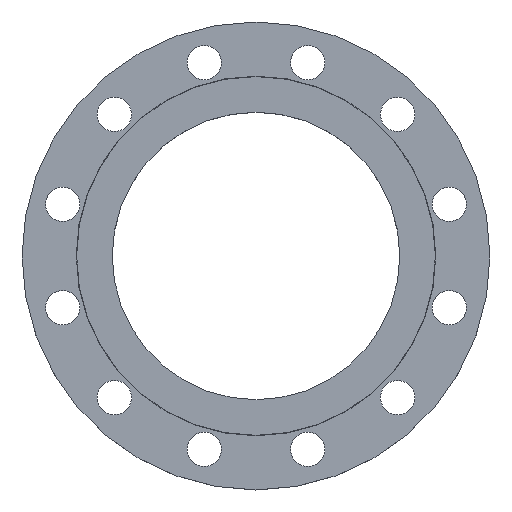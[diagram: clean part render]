
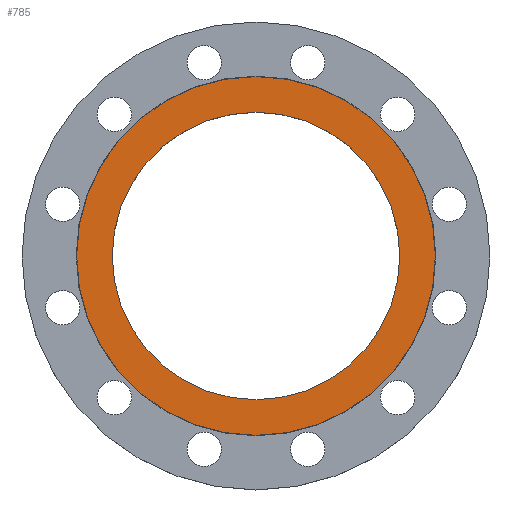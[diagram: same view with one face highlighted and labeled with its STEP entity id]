
A CAD part, top view. The second image highlights one B-rep face of the part: STEP entity #785.
In plain terms, the highlighted planar face has unit normal (0, 0, 1).
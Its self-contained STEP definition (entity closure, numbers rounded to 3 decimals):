
#12 = AXIS2_PLACEMENT_3D ( 'NONE', #169, #167, #166 ) ;
#17 = AXIS2_PLACEMENT_3D ( 'NONE', #606, #605, #604 ) ;
#38 = CIRCLE ( 'NONE', #79, 172.5 ) ;
#56 = AXIS2_PLACEMENT_3D ( 'NONE', #429, #428, #427 ) ;
#79 = AXIS2_PLACEMENT_3D ( 'NONE', #392, #803, #802 ) ;
#81 = CARTESIAN_POINT ( 'NONE',  ( -172.5, 0., 0. ) ) ;
#120 = CARTESIAN_POINT ( 'NONE',  ( -138.25, 0., 0. ) ) ;
#155 = CARTESIAN_POINT ( 'NONE',  ( 138.25, 0., 0. ) ) ;
#162 = DIRECTION ( 'NONE',  ( 1., 0., 0. ) ) ;
#163 = DIRECTION ( 'NONE',  ( 0., 0., 1. ) ) ;
#165 = CARTESIAN_POINT ( 'NONE',  ( 0., 0., 0. ) ) ;
#166 = DIRECTION ( 'NONE',  ( -1., 0., 0. ) ) ;
#167 = DIRECTION ( 'NONE',  ( 0., 0., -1. ) ) ;
#169 = CARTESIAN_POINT ( 'NONE',  ( 0., 0., 0. ) ) ;
#392 = CARTESIAN_POINT ( 'NONE',  ( 0., 0., 0. ) ) ;
#427 = DIRECTION ( 'NONE',  ( 1., 0., 0. ) ) ;
#428 = DIRECTION ( 'NONE',  ( 0., 0., 1. ) ) ;
#429 = CARTESIAN_POINT ( 'NONE',  ( 0., 0., 0. ) ) ;
#479 = CARTESIAN_POINT ( 'NONE',  ( 172.5, 0., 0. ) ) ;
#480 = EDGE_CURVE ( 'NONE', #913, #1264, #38, .T. ) ;
#604 = DIRECTION ( 'NONE',  ( 1., 0., 0. ) ) ;
#605 = DIRECTION ( 'NONE',  ( 0., 0., 1. ) ) ;
#606 = CARTESIAN_POINT ( 'NONE',  ( 0., 0., 0. ) ) ;
#607 = PLANE ( 'NONE',  #17 ) ;
#611 = FACE_OUTER_BOUND ( 'NONE', #1262, .T. ) ;
#612 = FACE_BOUND ( 'NONE', #1220, .T. ) ;
#625 = ORIENTED_EDGE ( 'NONE', *, *, #968, .F. ) ;
#630 = ORIENTED_EDGE ( 'NONE', *, *, #1166, .F. ) ;
#639 = ORIENTED_EDGE ( 'NONE', *, *, #1164, .F. ) ;
#647 = ORIENTED_EDGE ( 'NONE', *, *, #480, .F. ) ;
#785 = ADVANCED_FACE ( 'NONE', ( #612, #611 ), #607, .T. ) ;
#802 = DIRECTION ( 'NONE',  ( -1., 0., 0. ) ) ;
#803 = DIRECTION ( 'NONE',  ( 0., 0., -1. ) ) ;
#889 = CIRCLE ( 'NONE', #56, 138.25 ) ;
#913 = VERTEX_POINT ( 'NONE', #479 ) ;
#968 = EDGE_CURVE ( 'NONE', #1172, #1204, #889, .T. ) ;
#1034 = CIRCLE ( 'NONE', #1094, 138.25 ) ;
#1074 = CIRCLE ( 'NONE', #12, 172.5 ) ;
#1094 = AXIS2_PLACEMENT_3D ( 'NONE', #165, #163, #162 ) ;
#1164 = EDGE_CURVE ( 'NONE', #1264, #913, #1074, .T. ) ;
#1166 = EDGE_CURVE ( 'NONE', #1204, #1172, #1034, .T. ) ;
#1172 = VERTEX_POINT ( 'NONE', #155 ) ;
#1204 = VERTEX_POINT ( 'NONE', #120 ) ;
#1220 = EDGE_LOOP ( 'NONE', ( #625, #630 ) ) ;
#1262 = EDGE_LOOP ( 'NONE', ( #639, #647 ) ) ;
#1264 = VERTEX_POINT ( 'NONE', #81 ) ;
